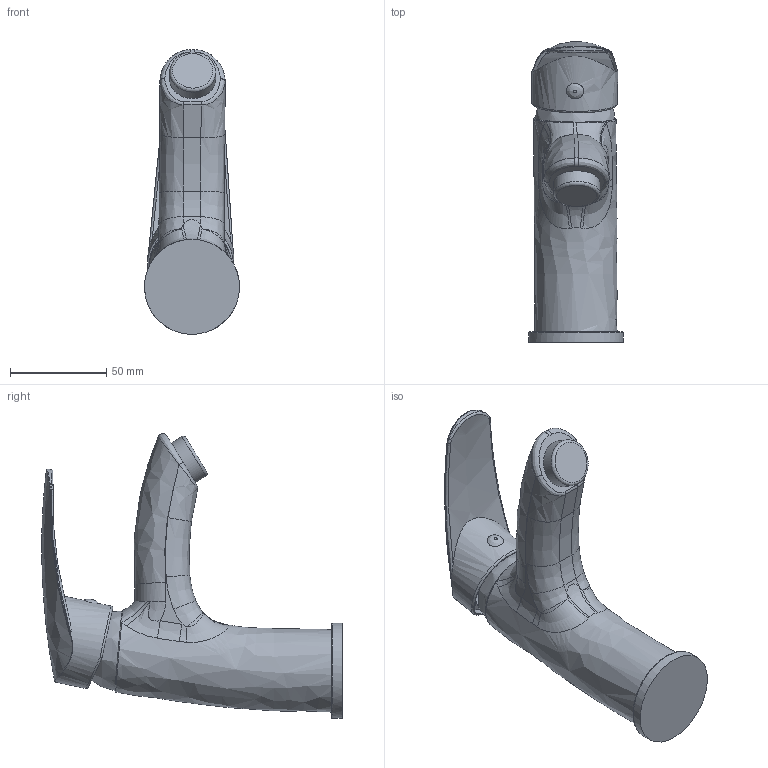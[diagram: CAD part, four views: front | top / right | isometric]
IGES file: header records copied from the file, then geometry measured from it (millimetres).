
Global section: file name: 31b760bb-d8f8-4468-b097-5b6aab274ad4; native system: unknown; preprocessor: unknown; author: unknown; organization: unknown; date: 20191215.125930; units: millimetre
Bounding box: 49.47 x 156.51 x 148.22 mm (x, y, z)
Volume: 306934.7 mm3; surface area: 40743.2 mm2
Topology: 1 solids, 1 shells, 92 faces, 225 edges, 137 vertices
Faces by surface type: bspline 92
